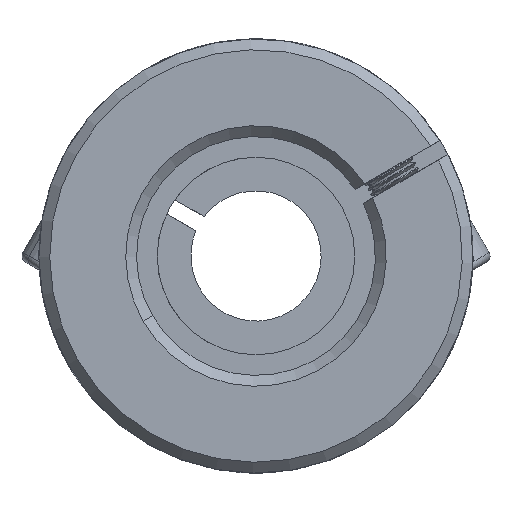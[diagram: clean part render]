
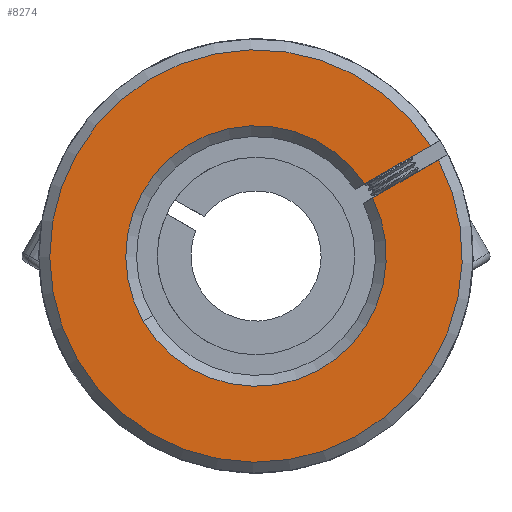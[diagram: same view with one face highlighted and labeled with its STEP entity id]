
A CAD part, front view. The second image highlights one B-rep face of the part: STEP entity #8274.
In plain terms, the highlighted planar face has unit normal (0, -1, 0).
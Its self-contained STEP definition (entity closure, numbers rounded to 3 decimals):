
#164 = AXIS2_PLACEMENT_3D ( 'NONE', #7907, #8986, #268 ) ;
#180 = CARTESIAN_POINT ( 'NONE',  ( 15.367, -31.239, 48.848 ) ) ;
#268 = DIRECTION ( 'NONE',  ( 0.5, 0., -0.866 ) ) ;
#480 = DIRECTION ( 'NONE',  ( 0., -1., 0. ) ) ;
#557 = CARTESIAN_POINT ( 'NONE',  ( 8.431, -31.239, 44.841 ) ) ;
#637 = VERTEX_POINT ( 'NONE', #8257 ) ;
#2110 = EDGE_CURVE ( 'NONE', #6027, #13538, #8183, .T. ) ;
#2215 = ORIENTED_EDGE ( 'NONE', *, *, #4222, .T. ) ;
#2455 = AXIS2_PLACEMENT_3D ( 'NONE', #11023, #480, #10123 ) ;
#2817 = CARTESIAN_POINT ( 'NONE',  ( 9.298, -31.239, 45.342 ) ) ;
#3017 = EDGE_CURVE ( 'NONE', #637, #13538, #11864, .T. ) ;
#3385 = CARTESIAN_POINT ( 'NONE',  ( -1.447, -31.239, 40. ) ) ;
#3419 = ORIENTED_EDGE ( 'NONE', *, *, #2110, .T. ) ;
#3958 = DIRECTION ( 'NONE',  ( -0.866, 0., -0.5 ) ) ;
#4090 = LINE ( 'NONE', #557, #7760 ) ;
#4222 = EDGE_CURVE ( 'NONE', #637, #8461, #5807, .T. ) ;
#4377 = PLANE ( 'NONE',  #6474 ) ;
#5491 = DIRECTION ( 'NONE',  ( 0., 1., 0. ) ) ;
#5727 = EDGE_LOOP ( 'NONE', ( #10592, #5858, #3419, #13046, #2215 ) ) ;
#5807 = CIRCLE ( 'NONE', #2455, 19. ) ;
#5858 = ORIENTED_EDGE ( 'NONE', *, *, #12372, .T. ) ;
#6027 = VERTEX_POINT ( 'NONE', #11106 ) ;
#6053 = VERTEX_POINT ( 'NONE', #2817 ) ;
#6145 = EDGE_CURVE ( 'NONE', #6053, #8461, #4090, .T. ) ;
#6166 = VECTOR ( 'NONE', #3958, 1000. ) ;
#6244 = CARTESIAN_POINT ( 'NONE',  ( 7.68, -31.239, 46.14 ) ) ;
#6474 = AXIS2_PLACEMENT_3D ( 'NONE', #12807, #13919, #6479 ) ;
#6479 = DIRECTION ( 'NONE',  ( 0.5, 0., -0.866 ) ) ;
#6533 = CARTESIAN_POINT ( 'NONE',  ( 8.548, -31.239, 46.641 ) ) ;
#7760 = VECTOR ( 'NONE', #12376, 1000. ) ;
#7907 = CARTESIAN_POINT ( 'NONE',  ( -1.447, -31.239, 40. ) ) ;
#8183 = CIRCLE ( 'NONE', #164, 12. ) ;
#8257 = CARTESIAN_POINT ( 'NONE',  ( 14.616, -31.239, 50.147 ) ) ;
#8274 = ADVANCED_FACE ( 'NONE', ( #8987 ), #4377, .F. ) ;
#8461 = VERTEX_POINT ( 'NONE', #180 ) ;
#8986 = DIRECTION ( 'NONE',  ( 0., 1., 0. ) ) ;
#8987 = FACE_OUTER_BOUND ( 'NONE', #5727, .T. ) ;
#9406 = CIRCLE ( 'NONE', #11109, 12. ) ;
#10123 = DIRECTION ( 'NONE',  ( 0.5, 0., -0.866 ) ) ;
#10592 = ORIENTED_EDGE ( 'NONE', *, *, #6145, .F. ) ;
#10769 = DIRECTION ( 'NONE',  ( 0.5, 0., -0.866 ) ) ;
#11023 = CARTESIAN_POINT ( 'NONE',  ( -1.447, -31.239, 40. ) ) ;
#11106 = CARTESIAN_POINT ( 'NONE',  ( -11.837, -31.239, 33.997 ) ) ;
#11109 = AXIS2_PLACEMENT_3D ( 'NONE', #3385, #5491, #10769 ) ;
#11864 = LINE ( 'NONE', #6244, #6166 ) ;
#12372 = EDGE_CURVE ( 'NONE', #6053, #6027, #9406, .T. ) ;
#12376 = DIRECTION ( 'NONE',  ( 0.866, 0., 0.5 ) ) ;
#12807 = CARTESIAN_POINT ( 'NONE',  ( 52.98, -31.239, 45.743 ) ) ;
#13046 = ORIENTED_EDGE ( 'NONE', *, *, #3017, .F. ) ;
#13538 = VERTEX_POINT ( 'NONE', #6533 ) ;
#13919 = DIRECTION ( 'NONE',  ( 0., 1., 0. ) ) ;
